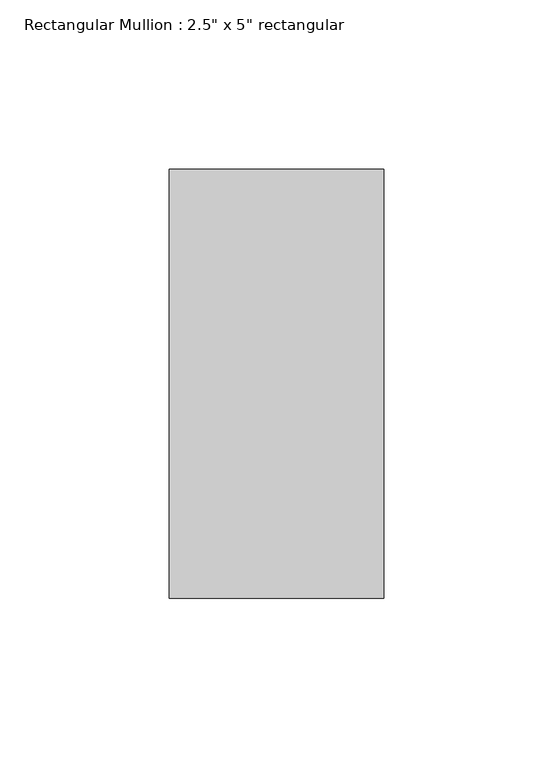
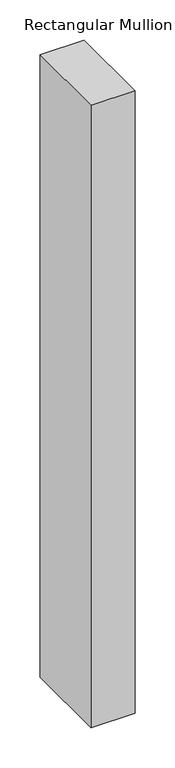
"""IFC4 building model written with IfcOpenShell, lengths in millimetres: member geometry."""

from ifc_helpers import new_model, si_unit, frame, origin, place, context, project, spatial, polyline, outline, extrude, source, transform, mapped, element, save


def member_cc8ff548(model_context):
    return source(origin(), model_context, "Body", "SweptSolid", [
        extrude(outline(polyline([(0.0, 63.5), (0.0, -63.5), (-63.5, -63.5), (-63.5, 63.5), (0.0, 63.5)])), frame((0.0, 0.0, -946.15), z_axis=(0.0, 0.0, 1.0), x_axis=(1.0, 0.0, 0.0)), (0.0, 0.0, 1.0), 946.15),
    ])


if __name__ == "__main__":
    model = new_model("IFC4")
    model_context = context("Model", 3, world=origin())
    ifc_project = project(units=[si_unit("LENGTHUNIT", "METRE", prefix="MILLI")], contexts=[model_context])
    site = spatial("IfcSite", under=ifc_project)
    building = spatial("IfcBuilding", under=site)
    placement = place(None, origin())
    member_shape = member_cc8ff548(model_context)
    element("IfcMember", 1, ObjectType="Rectangular Mullion : 2.5\" x 5\" rectangular", at=placement, inside=building, context=model_context, shape_type="MappedRepresentation", body=[
        mapped(member_shape, transform((0.0, 0.0, 0.0), x_axis=(1.0, 0.0, 0.0), y_axis=(0.0, 1.0, 0.0), z_axis=(0.0, 0.0, 1.0))),
    ])
    save(model, "model.ifc")
